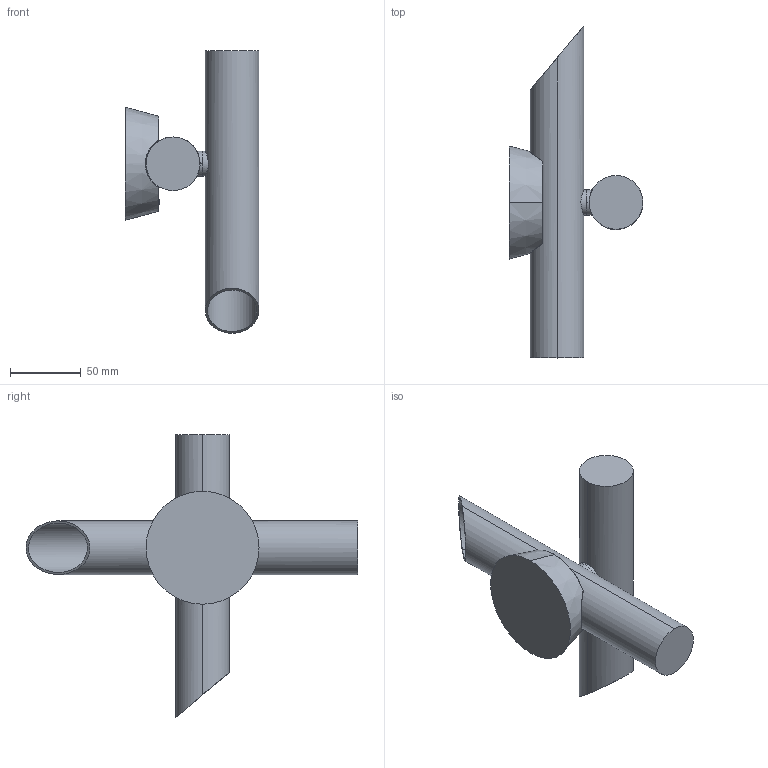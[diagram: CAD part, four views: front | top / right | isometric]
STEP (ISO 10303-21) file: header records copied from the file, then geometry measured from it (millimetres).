
FILE_DESCRIPTION (( 'STEP AP214' ), '1' );
FILE_NAME ('3D_TUBES_2_WALL.STEP', '2018-03-02T09:46:18', ( 'Utente' ), ( '' ), 'SwSTEP 2.0', 'SolidWorks 2016', '' );
FILE_SCHEMA (( 'AUTOMOTIVE_DESIGN' ));
Length unit declared in the file: millimetre
Products named in the file (6): ANELLO OR 11.11X1.78MARTI-2^800TTBLWW331_TUBES2 WALL PUSH ON BOARDMARTI; Tubo 2MARTI-1^800TTBLWW331_TUBES2 WALL PUSH ON BOARDMARTI; Tubo 3MARTI-1^800TTBLWW331_TUBES2 WALL PUSH ON BOARDMARTI; Group4^800TTBLWW331_TUBES2 WALL PUSH ON BOARDMARTI; Group3^800TTBLWW331_TUBES2 WALL PUSH ON BOARDMARTI; 3D_TUBES_2_WALL
Assembly tree (5 placements, depth 2):
  3D_TUBES_2_WALL
    Group3^800TTBLWW331_TUBES2 WALL PUSH ON BOARDMARTI
    Group4^800TTBLWW331_TUBES2 WALL PUSH ON BOARDMARTI
    Tubo 3MARTI-1^800TTBLWW331_TUBES2 WALL PUSH ON BOARDMARTI
    Tubo 2MARTI-1^800TTBLWW331_TUBES2 WALL PUSH ON BOARDMARTI
    ANELLO OR 11.11X1.78MARTI-2^800TTBLWW331_TUBES2 WALL PUSH ON BOARDMARTI
Bounding box: 94.8 x 234.99 x 199.98 mm (x, y, z)
Volume: 179538.7 mm3; surface area: 112308.9 mm2
Topology: 7 solids, 7 shells, 103 faces, 235 edges, 151 vertices
Faces by surface type: plane 49, cylinder 24, bspline 17, torus 7, sphere 4, cone 2
Entity records: 4009 total; most frequent: CARTESIAN_POINT 1540, ORIENTED_EDGE 470, DIRECTION 421, EDGE_CURVE 235, VERTEX_POINT 151, AXIS2_PLACEMENT_3D 144, VECTOR 133, LINE 133
